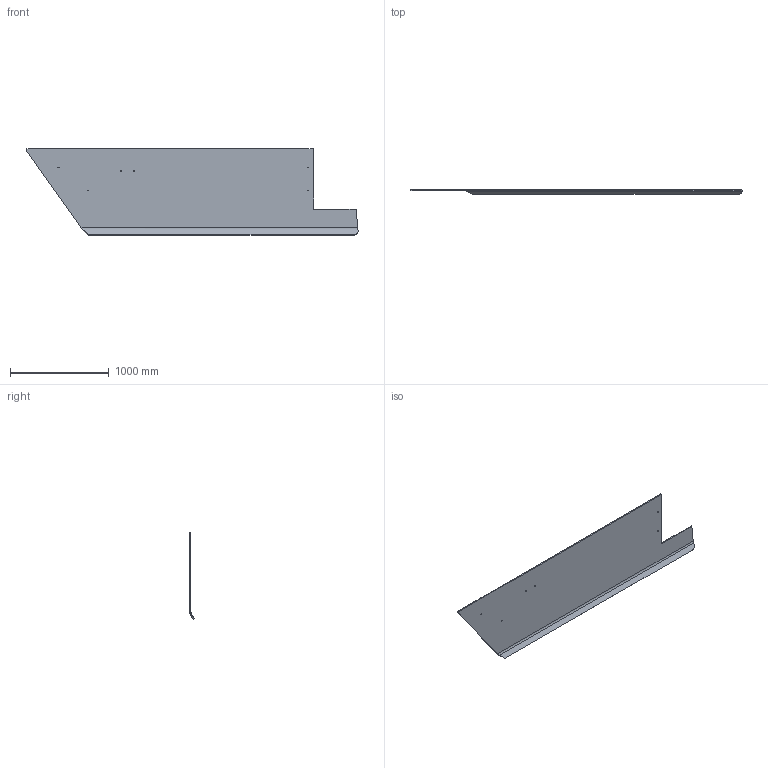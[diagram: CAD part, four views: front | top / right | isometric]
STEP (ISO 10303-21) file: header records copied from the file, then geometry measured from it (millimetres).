
FILE_DESCRIPTION(/* description */ (''),/* implementation_level */ '2;1');
FILE_NAME(/* name */ '6488423ugm000~00.stp',/* time_stamp */ '2021-01-13T09:01:20+01:00',/* author */ (''),/* organization */ (''),/* preprocessor_version */ 'ST-DEVELOPER v16',/* originating_system */ 'SIEMENS PLM Software NX 11.0',/* authorisation */ '');
FILE_SCHEMA (('AUTOMOTIVE_DESIGN { 1 0 10303 214 0 1 1 1 }'));
Length unit declared in the file: millimetre
Products named in the file (1): 6488423ugm000~00
Bounding box: 3369.63 x 47.14 x 882.87 mm (x, y, z)
Volume: 29309090.5 mm3; surface area: 4984376.2 mm2
Topology: 1 solids, 1 shells, 80 faces, 226 edges, 148 vertices
Faces by surface type: plane 40, cylinder 37, bspline 3
Entity records: 2686 total; most frequent: CARTESIAN_POINT 518, ORIENTED_EDGE 452, DIRECTION 446, EDGE_CURVE 226, LINE 150, VECTOR 150, VERTEX_POINT 148, AXIS2_PLACEMENT_3D 148
